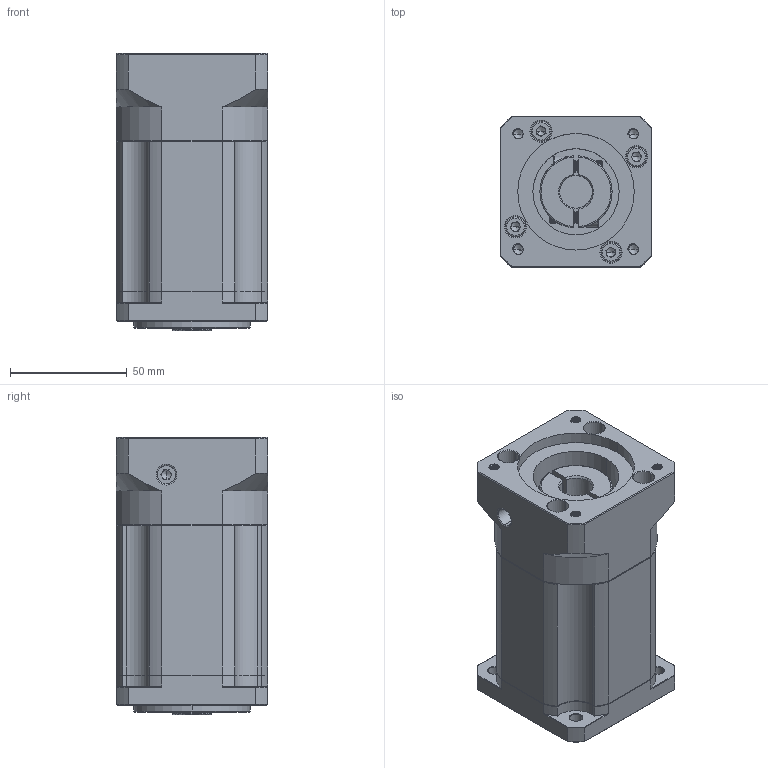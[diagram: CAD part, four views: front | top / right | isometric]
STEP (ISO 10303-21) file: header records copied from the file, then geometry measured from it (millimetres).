
FILE_DESCRIPTION (( 'STEP AP214' ), '1' );
FILE_NAME ('ZB60-K10-L3-14-50-70-M5.STEP', '2022-04-17T05:23:07', ( '' ), ( 'Microsoft' ), 'SwSTEP 2.0', 'SolidWorks 2016', '' );
FILE_SCHEMA (( 'AUTOMOTIVE_DESIGN' ));
Length unit declared in the file: millimetre
Products named in the file (1): ZB60-K10-L3-14-50-70-M5
Bounding box: 65 x 65 x 119 mm (x, y, z)
Volume: 382363.4 mm3; surface area: 61762.8 mm2
Topology: 6 solids, 6 shells, 1833 faces, 4859 edges, 3112 vertices
Faces by surface type: plane 876, cylinder 354, bspline 292, cone 277, torus 34
Entity records: 95857 total; most frequent: CARTESIAN_POINT 32323, ORIENTED_EDGE 9662, DIRECTION 8003, EDGE_CURVE 4831, VERTEX_POINT 3112, LINE 2983, VECTOR 2983, AXIS2_PLACEMENT_3D 2510
